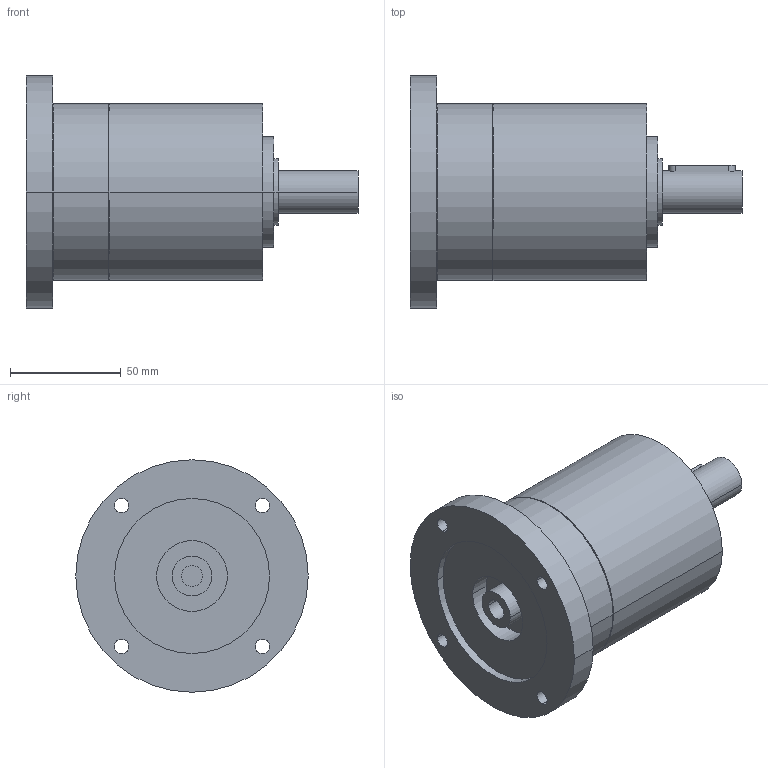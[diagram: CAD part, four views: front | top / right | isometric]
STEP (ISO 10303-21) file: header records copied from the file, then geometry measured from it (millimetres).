
FILE_DESCRIPTION(('CoCreate Modeling STEP Export'),'2;1');
FILE_NAME('GPR100_ig-3-4-5-6_19_B14_9.52_P12.stp','2014-08-26T10:09:42',(''),(''),'CoCreate Modeling STEP processor for AP214 (Solid Model)','CoCreate Modeling 16.00C 25-Feb-2009 (C) Parametric Technology GmbH','');
FILE_SCHEMA(('AUTOMOTIVE_DESIGN { 1 0 10303 214 1 1 1 1 }'));
Length unit declared in the file: millimetre
Products named in the file (2): GPR100_ig-3-4-5-6_19_B14_9.52_P12
Assembly tree (1 placements, depth 2):
  GPR100_ig-3-4-5-6_19_B14_9.52_P12
    GPR100_ig-3-4-5-6_19_B14_9.52_P12
Bounding box: 150 x 105 x 105 mm (x, y, z)
Volume: 578151.8 mm3; surface area: 54301.5 mm2
Topology: 1 solids, 1 shells, 76 faces, 202 edges, 144 vertices
Faces by surface type: cylinder 48, plane 22, cone 6
Entity records: 2022 total; most frequent: ORIENTED_EDGE 400, CARTESIAN_POINT 369, DIRECTION 262, EDGE_CURVE 200, VERTEX_POINT 144, EDGE_LOOP 102, AXIS2_PLACEMENT_3D 101, FACE_OUTER_BOUND 76
